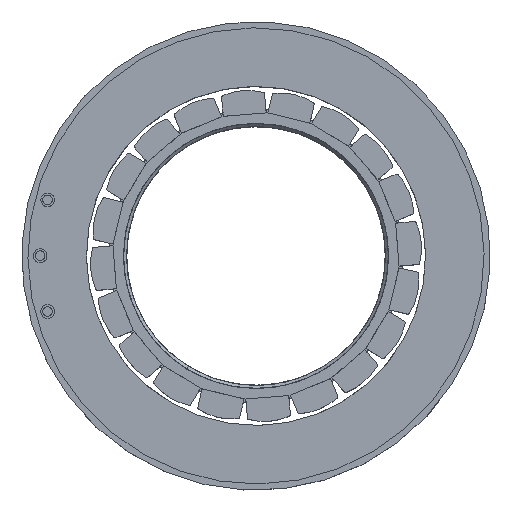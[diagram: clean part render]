
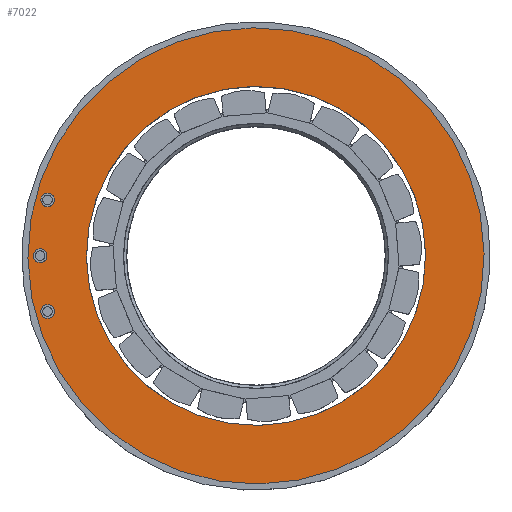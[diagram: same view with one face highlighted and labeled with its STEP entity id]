
A CAD part, top view. The second image highlights one B-rep face of the part: STEP entity #7022.
In plain terms, the highlighted planar face has unit normal (0, 0, 1).
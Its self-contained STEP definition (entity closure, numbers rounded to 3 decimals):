
#163 = FACE_OUTER_BOUND ( 'NONE', #3222, .T. ) ;
#593 = DIRECTION ( 'NONE',  ( 0.872, -0.489, 0. ) ) ;
#654 = CARTESIAN_POINT ( 'NONE',  ( 32.275, -18.093, 15. ) ) ;
#793 = DIRECTION ( 'NONE',  ( 0.872, -0.489, 0. ) ) ;
#1085 = CARTESIAN_POINT ( 'NONE',  ( 0., 0., 15. ) ) ;
#1186 = CIRCLE ( 'NONE', #7036, 27.5 ) ;
#1196 = CARTESIAN_POINT ( 'NONE',  ( -23.988, 13.447, 15. ) ) ;
#1325 = EDGE_LOOP ( 'NONE', ( #8831, #7084 ) ) ;
#1557 = DIRECTION ( 'NONE',  ( 0., 0., 1. ) ) ;
#1674 = CIRCLE ( 'NONE', #7552, 27.5 ) ;
#3222 = EDGE_LOOP ( 'NONE', ( #3423, #4803 ) ) ;
#3355 = CARTESIAN_POINT ( 'NONE',  ( 0., 0., 15. ) ) ;
#3423 = ORIENTED_EDGE ( 'NONE', *, *, #8028, .T. ) ;
#4715 = AXIS2_PLACEMENT_3D ( 'NONE', #8759, #1557, #7961 ) ;
#4746 = CARTESIAN_POINT ( 'NONE',  ( 0., 0., 15. ) ) ;
#4803 = ORIENTED_EDGE ( 'NONE', *, *, #7457, .T. ) ;
#4882 = DIRECTION ( 'NONE',  ( 0., 0., 1. ) ) ;
#5045 = AXIS2_PLACEMENT_3D ( 'NONE', #3355, #4882, #793 ) ;
#5106 = CARTESIAN_POINT ( 'NONE',  ( 23.988, -13.447, 15. ) ) ;
#5345 = CARTESIAN_POINT ( 'NONE',  ( 0., 0., 15. ) ) ;
#5495 = VERTEX_POINT ( 'NONE', #654 ) ;
#5544 = CIRCLE ( 'NONE', #4715, 37. ) ;
#5586 = EDGE_CURVE ( 'NONE', #9352, #5991, #1674, .T. ) ;
#5632 = EDGE_CURVE ( 'NONE', #5991, #9352, #1186, .T. ) ;
#5676 = DIRECTION ( 'NONE',  ( 0.872, -0.489, 0. ) ) ;
#5739 = DIRECTION ( 'NONE',  ( 0., 0., 1. ) ) ;
#5991 = VERTEX_POINT ( 'NONE', #1196 ) ;
#6199 = CIRCLE ( 'NONE', #7873, 37. ) ;
#7022 = ADVANCED_FACE ( 'NONE', ( #163, #8710 ), #9724, .T. ) ;
#7036 = AXIS2_PLACEMENT_3D ( 'NONE', #1085, #5739, #5676 ) ;
#7084 = ORIENTED_EDGE ( 'NONE', *, *, #5586, .F. ) ;
#7151 = DIRECTION ( 'NONE',  ( 0.872, -0.489, 0. ) ) ;
#7457 = EDGE_CURVE ( 'NONE', #5495, #10288, #5544, .T. ) ;
#7552 = AXIS2_PLACEMENT_3D ( 'NONE', #4746, #7940, #7151 ) ;
#7869 = DIRECTION ( 'NONE',  ( 0., 0., 1. ) ) ;
#7873 = AXIS2_PLACEMENT_3D ( 'NONE', #5345, #7869, #593 ) ;
#7940 = DIRECTION ( 'NONE',  ( 0., 0., 1. ) ) ;
#7949 = CARTESIAN_POINT ( 'NONE',  ( -32.275, 18.093, 15. ) ) ;
#7961 = DIRECTION ( 'NONE',  ( 0.872, -0.489, 0. ) ) ;
#8028 = EDGE_CURVE ( 'NONE', #10288, #5495, #6199, .T. ) ;
#8710 = FACE_BOUND ( 'NONE', #1325, .T. ) ;
#8759 = CARTESIAN_POINT ( 'NONE',  ( 0., 0., 15. ) ) ;
#8831 = ORIENTED_EDGE ( 'NONE', *, *, #5632, .F. ) ;
#9352 = VERTEX_POINT ( 'NONE', #5106 ) ;
#9724 = PLANE ( 'NONE',  #5045 ) ;
#10288 = VERTEX_POINT ( 'NONE', #7949 ) ;
